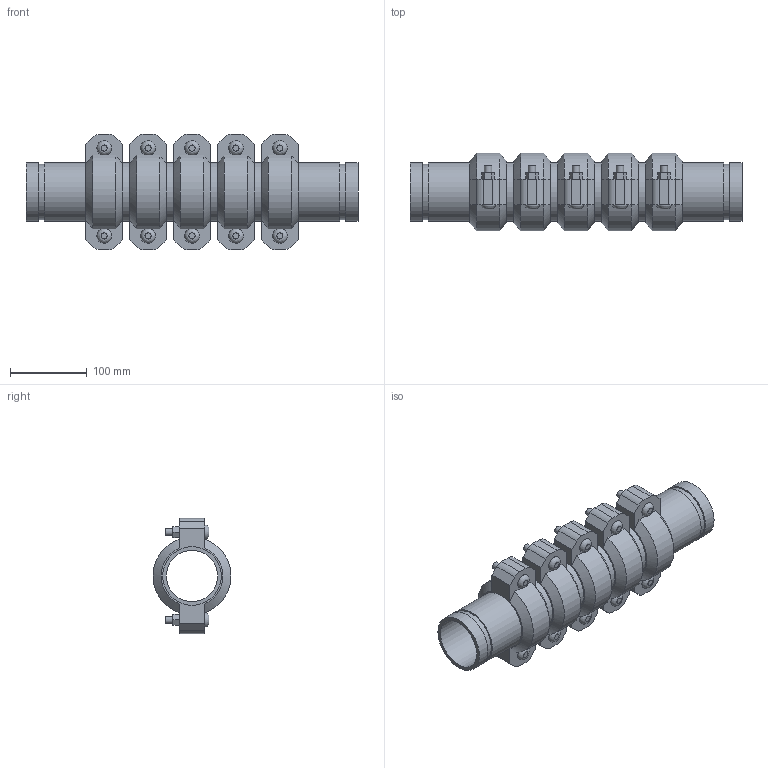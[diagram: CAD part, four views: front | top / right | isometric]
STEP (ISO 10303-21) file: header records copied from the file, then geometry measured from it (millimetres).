
FILE_DESCRIPTION(/* description */ ('VIC EXPANSION JOINT 5 COUPLINGS COMPRESSED STYLE 155 (OGS)','CAx-IF Rec.Pracs.---Representation and Presentation of Product Manufacturing Information (PMI)---4.0---2014-10-13'),/* implementation_level */ '2;1');
FILE_NAME(/* name */ 'C:\Users\kkamble\AppData\Roaming\Autodesk\ApplicationPlugins\Victaulic.Temp\A136\Victaulic_IPS_Expansion Joint_Compressed_5 Couplings_Style 155 (OGS)_02.5 (76.1) (65).stp',/* time_stamp */ '2021-06-27T00:29:32+02:00',/* author */ ('kkamble'),/* organization */ ('Victaulic'),/* preprocessor_version */ 'ST-DEVELOPER v17.2',/* originating_system */ 'Autodesk Inventor 2019',/* authorisation */ '');
FILE_SCHEMA (('AP242_MANAGED_MODEL_BASED_3D_ENGINEERING_MIM_LF { 1 0 10303 442 1 1 4 }'));
Length unit declared in the file: inch
Products named in the file (4): 155-02.5 (76.1); Nipple-02.5 (76.1); Nipple-02.5 (76.1)_1; 075-02.5 (76.1)
Assembly tree (11 placements, depth 2):
  155-02.5 (76.1)
    Nipple-02.5 (76.1)  x2
    Nipple-02.5 (76.1)_1  x4
    075-02.5 (76.1)  x5
Bounding box: 431.8 x 101.25 x 149.86 mm (x, y, z)
Volume: 1518537.2 mm3; surface area: 436202.7 mm2
Topology: 11 solids, 21 shells, 337 faces, 835 edges, 584 vertices
Faces by surface type: plane 206, cylinder 101, cone 20, bspline 10
Full cylindrical faces by diameter (mm): 9.525 x20, 11.43 x10, 66.65 x6, 72.263 x12, 76.2 x23
Entity records: 2757 total; most frequent: CARTESIAN_POINT 513, DIRECTION 449, ORIENTED_EDGE 382, EDGE_CURVE 191, AXIS2_PLACEMENT_3D 178, VERTEX_POINT 136, EDGE_LOOP 99, LINE 93
